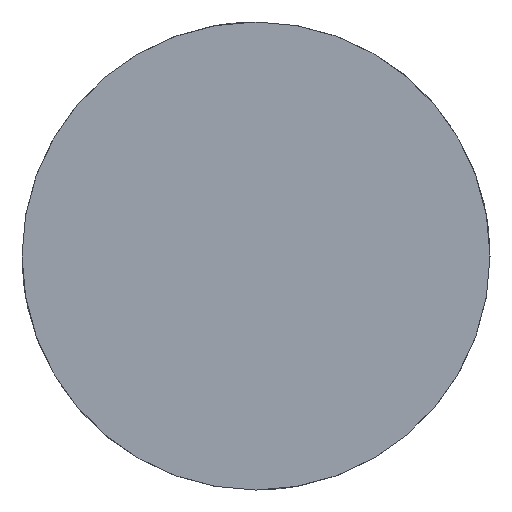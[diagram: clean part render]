
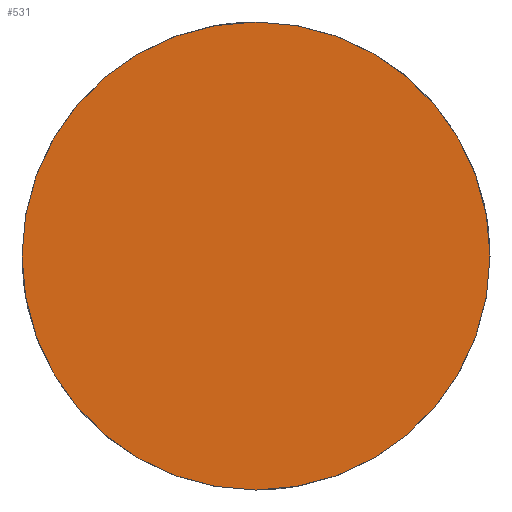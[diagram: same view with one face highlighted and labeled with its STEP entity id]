
A CAD part, left-side view. The second image highlights one B-rep face of the part: STEP entity #531.
In plain terms, the highlighted planar face has unit normal (-1, 0, 0).
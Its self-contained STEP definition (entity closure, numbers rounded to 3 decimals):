
#463=CARTESIAN_POINT('Vertex',(-2.,0.,-2.)) ;
#466=CARTESIAN_POINT('Axis2P3D Location',(-2.,0.,0.)) ;
#470=CARTESIAN_POINT('Vertex',(-2.,2.,0.)) ;
#473=CARTESIAN_POINT('Axis2P3D Location',(-2.,0.,0.)) ;
#477=CARTESIAN_POINT('Vertex',(-2.,0.,2.)) ;
#499=CARTESIAN_POINT('Axis2P3D Location',(-2.,0.,0.)) ;
#503=CARTESIAN_POINT('Vertex',(-2.,-2.,0.)) ;
#506=CARTESIAN_POINT('Axis2P3D Location',(-2.,0.,0.)) ;
#520=CARTESIAN_POINT('Axis2P3D Location',(-2.,0.,0.)) ;
#467=DIRECTION('Axis2P3D Direction',(-1.,-0.,-0.)) ;
#474=DIRECTION('Axis2P3D Direction',(-1.,-0.,-0.)) ;
#500=DIRECTION('Axis2P3D Direction',(-1.,-0.,-0.)) ;
#507=DIRECTION('Axis2P3D Direction',(-1.,-0.,-0.)) ;
#521=DIRECTION('Axis2P3D Direction',(1.,0.,-0.)) ;
#522=DIRECTION('Axis2P3D XDirection',(-0.,0.,-1.)) ;
#468=AXIS2_PLACEMENT_3D('Circle Axis2P3D',#466,#467,$) ;
#475=AXIS2_PLACEMENT_3D('Circle Axis2P3D',#473,#474,$) ;
#501=AXIS2_PLACEMENT_3D('Circle Axis2P3D',#499,#500,$) ;
#508=AXIS2_PLACEMENT_3D('Circle Axis2P3D',#506,#507,$) ;
#523=AXIS2_PLACEMENT_3D('Plane Axis2P3D',#520,#521,#522) ;
#526=ORIENTED_EDGE('',*,*,#472,.F.) ;
#527=ORIENTED_EDGE('',*,*,#510,.F.) ;
#528=ORIENTED_EDGE('',*,*,#505,.F.) ;
#529=ORIENTED_EDGE('',*,*,#479,.F.) ;
#531=ADVANCED_FACE('359-1X2X100',(#530),#524,.F.) ;
#469=CIRCLE('generated circle',#468,2.) ;
#476=CIRCLE('generated circle',#475,2.) ;
#502=CIRCLE('generated circle',#501,2.) ;
#509=CIRCLE('generated circle',#508,2.) ;
#472=EDGE_CURVE('',#464,#471,#469,.F.) ;
#479=EDGE_CURVE('',#471,#478,#476,.F.) ;
#505=EDGE_CURVE('',#478,#504,#502,.F.) ;
#510=EDGE_CURVE('',#504,#464,#509,.F.) ;
#525=EDGE_LOOP('',(#526,#527,#528,#529)) ;
#530=FACE_OUTER_BOUND('',#525,.T.) ;
#524=PLANE('Plane',#523) ;
#464=VERTEX_POINT('',#463) ;
#471=VERTEX_POINT('',#470) ;
#478=VERTEX_POINT('',#477) ;
#504=VERTEX_POINT('',#503) ;
